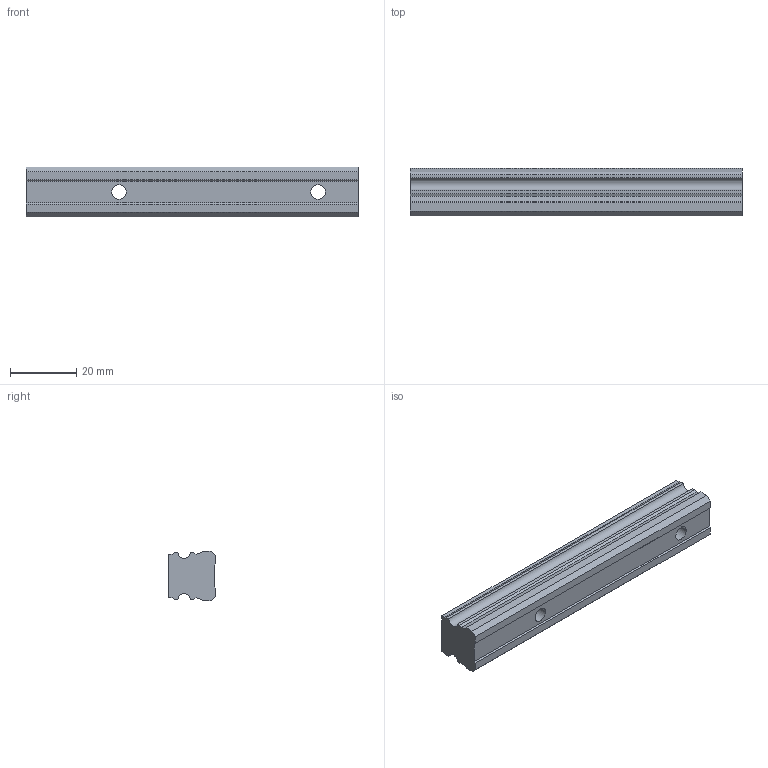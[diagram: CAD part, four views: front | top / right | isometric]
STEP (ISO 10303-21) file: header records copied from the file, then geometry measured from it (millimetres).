
FILE_DESCRIPTION( ( '' ), '1' );
FILE_NAME( 'c:/dr_tretter_step_out/schienenfuehrungen/alu_sf/a15_0100.stp', '2008-09-03T09:11:42', ( '' ), ( '' ), ' ', ' ', ' ' );
FILE_SCHEMA( ( 'CONFIG_CONTROL_DESIGN' ) );
Length unit declared in the file: millimetre
Products named in the file (1): 1
Bounding box: 100 x 14.3 x 15 mm (x, y, z)
Volume: 17906.3 mm3; surface area: 6814.3 mm2
Topology: 1 solids, 1 shells, 38 faces, 102 edges, 68 vertices
Faces by surface type: plane 28, cylinder 10
Entity records: 1238 total; most frequent: CARTESIAN_POINT 209, ORIENTED_EDGE 204, DIRECTION 200, EDGE_CURVE 102, LINE 82, VECTOR 82, VERTEX_POINT 68, AXIS2_PLACEMENT_3D 59
